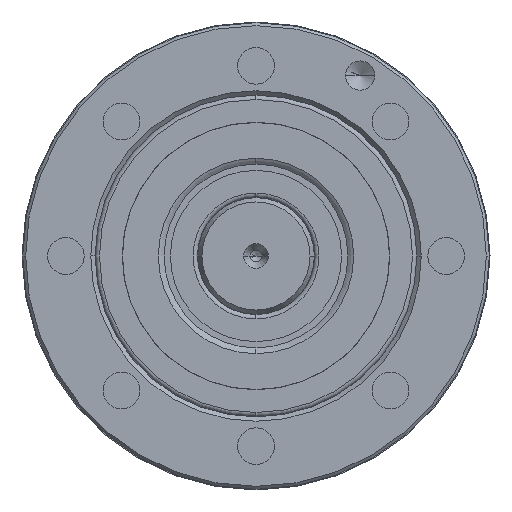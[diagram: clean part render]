
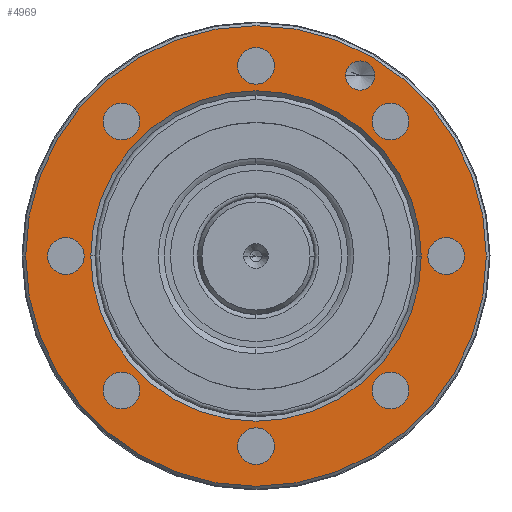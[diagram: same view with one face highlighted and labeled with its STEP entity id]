
A CAD part, left-side view. The second image highlights one B-rep face of the part: STEP entity #4969.
In plain terms, the highlighted planar face has unit normal (-1, 0, 0).
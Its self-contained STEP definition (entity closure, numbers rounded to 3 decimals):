
#626=CARTESIAN_POINT('',(-2.85,0.,0.));
#627=DIRECTION('',(-1.,0.,0.));
#628=DIRECTION('',(0.,1.,0.));
#629=AXIS2_PLACEMENT_3D('',#626,#627,#628);
#634=CARTESIAN_POINT('',(-2.85,0.,0.));
#635=DIRECTION('',(-1.,0.,0.));
#636=DIRECTION('',(0.,-1.,0.));
#637=AXIS2_PLACEMENT_3D('',#634,#635,#636);
#642=CARTESIAN_POINT('',(-2.85,13.,0.));
#643=DIRECTION('',(-1.,0.,0.));
#644=DIRECTION('',(0.,1.,0.));
#645=AXIS2_PLACEMENT_3D('',#642,#643,#644);
#650=CARTESIAN_POINT('',(-2.85,13.,0.));
#651=DIRECTION('',(-1.,0.,0.));
#652=DIRECTION('',(0.,-1.,0.));
#653=AXIS2_PLACEMENT_3D('',#650,#651,#652);
#658=CARTESIAN_POINT('',(-2.85,9.192,9.192));
#659=DIRECTION('',(-1.,0.,0.));
#660=DIRECTION('',(0.,0.707,0.707));
#661=AXIS2_PLACEMENT_3D('',#658,#659,#660);
#666=CARTESIAN_POINT('',(-2.85,9.192,9.192));
#667=DIRECTION('',(-1.,0.,0.));
#668=DIRECTION('',(0.,-0.707,-0.707));
#669=AXIS2_PLACEMENT_3D('',#666,#667,#668);
#674=CARTESIAN_POINT('',(-2.85,0.,13.));
#675=DIRECTION('',(-1.,0.,0.));
#676=DIRECTION('',(0.,0.,1.));
#677=AXIS2_PLACEMENT_3D('',#674,#675,#676);
#682=CARTESIAN_POINT('',(-2.85,0.,13.));
#683=DIRECTION('',(-1.,0.,0.));
#684=DIRECTION('',(0.,0.,-1.));
#685=AXIS2_PLACEMENT_3D('',#682,#683,#684);
#690=CARTESIAN_POINT('',(-2.85,-9.192,9.192));
#691=DIRECTION('',(-1.,0.,0.));
#692=DIRECTION('',(0.,-0.707,0.707));
#693=AXIS2_PLACEMENT_3D('',#690,#691,#692);
#698=CARTESIAN_POINT('',(-2.85,-9.192,9.192));
#699=DIRECTION('',(-1.,0.,0.));
#700=DIRECTION('',(0.,0.707,-0.707));
#701=AXIS2_PLACEMENT_3D('',#698,#699,#700);
#706=CARTESIAN_POINT('',(-2.85,-13.,0.));
#707=DIRECTION('',(-1.,0.,0.));
#708=DIRECTION('',(0.,-1.,0.));
#709=AXIS2_PLACEMENT_3D('',#706,#707,#708);
#714=CARTESIAN_POINT('',(-2.85,-13.,0.));
#715=DIRECTION('',(-1.,0.,0.));
#716=DIRECTION('',(0.,1.,0.));
#717=AXIS2_PLACEMENT_3D('',#714,#715,#716);
#722=CARTESIAN_POINT('',(-2.85,-9.192,-9.192));
#723=DIRECTION('',(-1.,0.,0.));
#724=DIRECTION('',(0.,-0.707,-0.707));
#725=AXIS2_PLACEMENT_3D('',#722,#723,#724);
#730=CARTESIAN_POINT('',(-2.85,-9.192,-9.192));
#731=DIRECTION('',(-1.,0.,0.));
#732=DIRECTION('',(0.,0.707,0.707));
#733=AXIS2_PLACEMENT_3D('',#730,#731,#732);
#738=CARTESIAN_POINT('',(-2.85,0.,-13.));
#739=DIRECTION('',(-1.,0.,0.));
#740=DIRECTION('',(0.,0.,-1.));
#741=AXIS2_PLACEMENT_3D('',#738,#739,#740);
#746=CARTESIAN_POINT('',(-2.85,0.,-13.));
#747=DIRECTION('',(-1.,0.,0.));
#748=DIRECTION('',(0.,0.,1.));
#749=AXIS2_PLACEMENT_3D('',#746,#747,#748);
#754=CARTESIAN_POINT('',(-2.85,9.192,-9.192));
#755=DIRECTION('',(-1.,0.,0.));
#756=DIRECTION('',(0.,0.707,-0.707));
#757=AXIS2_PLACEMENT_3D('',#754,#755,#756);
#762=CARTESIAN_POINT('',(-2.85,9.192,-9.192));
#763=DIRECTION('',(-1.,0.,0.));
#764=DIRECTION('',(0.,-0.707,0.707));
#765=AXIS2_PLACEMENT_3D('',#762,#763,#764);
#770=CARTESIAN_POINT('',(-2.85,0.,0.));
#771=DIRECTION('',(-1.,0.,0.));
#772=DIRECTION('',(0.,-1.,0.));
#773=AXIS2_PLACEMENT_3D('',#770,#771,#772);
#778=CARTESIAN_POINT('',(-2.85,0.,0.));
#779=DIRECTION('',(-1.,0.,0.));
#780=DIRECTION('',(0.,1.,0.));
#781=AXIS2_PLACEMENT_3D('',#778,#779,#780);
#786=CARTESIAN_POINT('',(-2.85,-7.125,12.341));
#787=DIRECTION('',(-1.,0.,0.));
#788=DIRECTION('',(0.,1.,0.));
#789=AXIS2_PLACEMENT_3D('',#786,#787,#788);
#794=CARTESIAN_POINT('',(-2.85,-7.125,12.341));
#795=DIRECTION('',(-1.,0.,0.));
#796=DIRECTION('',(0.,-1.,0.));
#797=AXIS2_PLACEMENT_3D('',#794,#795,#796);
#3711=CARTESIAN_POINT('',(-2.85,14.25,0.));
#3712=CARTESIAN_POINT('',(-2.85,11.75,0.));
#3713=VERTEX_POINT('',#3711);
#3714=VERTEX_POINT('',#3712);
#3715=CARTESIAN_POINT('',(-2.85,10.076,10.076));
#3716=CARTESIAN_POINT('',(-2.85,8.309,8.309));
#3717=VERTEX_POINT('',#3715);
#3718=VERTEX_POINT('',#3716);
#3719=CARTESIAN_POINT('',(-2.85,0.,14.25));
#3720=CARTESIAN_POINT('',(-2.85,0.,11.75));
#3721=VERTEX_POINT('',#3719);
#3722=VERTEX_POINT('',#3720);
#3723=CARTESIAN_POINT('',(-2.85,-10.076,10.076));
#3724=CARTESIAN_POINT('',(-2.85,-8.309,8.309));
#3725=VERTEX_POINT('',#3723);
#3726=VERTEX_POINT('',#3724);
#3727=CARTESIAN_POINT('',(-2.85,-14.25,0.));
#3728=CARTESIAN_POINT('',(-2.85,-11.75,0.));
#3729=VERTEX_POINT('',#3727);
#3730=VERTEX_POINT('',#3728);
#3731=CARTESIAN_POINT('',(-2.85,-10.076,-10.076));
#3732=CARTESIAN_POINT('',(-2.85,-8.309,-8.309));
#3733=VERTEX_POINT('',#3731);
#3734=VERTEX_POINT('',#3732);
#3735=CARTESIAN_POINT('',(-2.85,0.,-14.25));
#3736=CARTESIAN_POINT('',(-2.85,0.,-11.75));
#3737=VERTEX_POINT('',#3735);
#3738=VERTEX_POINT('',#3736);
#3739=CARTESIAN_POINT('',(-2.85,10.076,-10.076));
#3740=CARTESIAN_POINT('',(-2.85,8.309,-8.309));
#3741=VERTEX_POINT('',#3739);
#3742=VERTEX_POINT('',#3740);
#3743=CARTESIAN_POINT('',(-2.85,15.75,0.));
#3744=CARTESIAN_POINT('',(-2.85,-15.75,0.));
#3745=VERTEX_POINT('',#3743);
#3746=VERTEX_POINT('',#3744);
#3751=CARTESIAN_POINT('',(-2.85,-11.3,0.));
#3752=CARTESIAN_POINT('',(-2.85,11.3,0.));
#3753=VERTEX_POINT('',#3751);
#3754=VERTEX_POINT('',#3752);
#3761=CARTESIAN_POINT('',(-2.85,-6.125,12.341));
#3762=CARTESIAN_POINT('',(-2.85,-8.125,12.341));
#3763=VERTEX_POINT('',#3761);
#3764=VERTEX_POINT('',#3762);
#4899=CARTESIAN_POINT('',(-2.85,0.,0.));
#4900=DIRECTION('',(-1.,0.,0.));
#4901=DIRECTION('',(0.,1.,0.));
#4902=AXIS2_PLACEMENT_3D('',#4899,#4900,#4901);
#4903=PLANE('',#4902);
#4905=ORIENTED_EDGE('',*,*,#4904,.F.);
#4906=ORIENTED_EDGE('',*,*,#4882,.F.);
#4907=EDGE_LOOP('',(#4905,#4906));
#4908=FACE_OUTER_BOUND('',#4907,.F.);
#4910=ORIENTED_EDGE('',*,*,#4909,.T.);
#4912=ORIENTED_EDGE('',*,*,#4911,.T.);
#4913=EDGE_LOOP('',(#4910,#4912));
#4914=FACE_BOUND('',#4913,.F.);
#4916=ORIENTED_EDGE('',*,*,#4915,.T.);
#4918=ORIENTED_EDGE('',*,*,#4917,.T.);
#4919=EDGE_LOOP('',(#4916,#4918));
#4920=FACE_BOUND('',#4919,.F.);
#4922=ORIENTED_EDGE('',*,*,#4921,.T.);
#4924=ORIENTED_EDGE('',*,*,#4923,.T.);
#4925=EDGE_LOOP('',(#4922,#4924));
#4926=FACE_BOUND('',#4925,.F.);
#4928=ORIENTED_EDGE('',*,*,#4927,.T.);
#4930=ORIENTED_EDGE('',*,*,#4929,.T.);
#4931=EDGE_LOOP('',(#4928,#4930));
#4932=FACE_BOUND('',#4931,.F.);
#4934=ORIENTED_EDGE('',*,*,#4933,.T.);
#4936=ORIENTED_EDGE('',*,*,#4935,.T.);
#4937=EDGE_LOOP('',(#4934,#4936));
#4938=FACE_BOUND('',#4937,.F.);
#4940=ORIENTED_EDGE('',*,*,#4939,.T.);
#4942=ORIENTED_EDGE('',*,*,#4941,.T.);
#4943=EDGE_LOOP('',(#4940,#4942));
#4944=FACE_BOUND('',#4943,.F.);
#4946=ORIENTED_EDGE('',*,*,#4945,.T.);
#4948=ORIENTED_EDGE('',*,*,#4947,.T.);
#4949=EDGE_LOOP('',(#4946,#4948));
#4950=FACE_BOUND('',#4949,.F.);
#4952=ORIENTED_EDGE('',*,*,#4951,.T.);
#4954=ORIENTED_EDGE('',*,*,#4953,.T.);
#4955=EDGE_LOOP('',(#4952,#4954));
#4956=FACE_BOUND('',#4955,.F.);
#4958=ORIENTED_EDGE('',*,*,#4957,.T.);
#4960=ORIENTED_EDGE('',*,*,#4959,.T.);
#4961=EDGE_LOOP('',(#4958,#4960));
#4962=FACE_BOUND('',#4961,.F.);
#4964=ORIENTED_EDGE('',*,*,#4963,.T.);
#4966=ORIENTED_EDGE('',*,*,#4965,.T.);
#4967=EDGE_LOOP('',(#4964,#4966));
#4968=FACE_BOUND('',#4967,.F.);
#4969=ADVANCED_FACE('',(#4908,#4914,#4920,#4926,#4932,#4938,#4944,#4950,#4956,
#4962,#4968),#4903,.T.);
#630=CIRCLE('',#629,15.75);
#638=CIRCLE('',#637,15.75);
#646=CIRCLE('',#645,1.25);
#654=CIRCLE('',#653,1.25);
#662=CIRCLE('',#661,1.25);
#670=CIRCLE('',#669,1.25);
#678=CIRCLE('',#677,1.25);
#686=CIRCLE('',#685,1.25);
#694=CIRCLE('',#693,1.25);
#702=CIRCLE('',#701,1.25);
#710=CIRCLE('',#709,1.25);
#718=CIRCLE('',#717,1.25);
#726=CIRCLE('',#725,1.25);
#734=CIRCLE('',#733,1.25);
#742=CIRCLE('',#741,1.25);
#750=CIRCLE('',#749,1.25);
#758=CIRCLE('',#757,1.25);
#766=CIRCLE('',#765,1.25);
#774=CIRCLE('',#773,11.3);
#782=CIRCLE('',#781,11.3);
#790=CIRCLE('',#789,1.);
#798=CIRCLE('',#797,1.);
#4882=EDGE_CURVE('',#3746,#3745,#638,.T.);
#4904=EDGE_CURVE('',#3745,#3746,#630,.T.);
#4909=EDGE_CURVE('',#3713,#3714,#646,.T.);
#4911=EDGE_CURVE('',#3714,#3713,#654,.T.);
#4915=EDGE_CURVE('',#3717,#3718,#662,.T.);
#4917=EDGE_CURVE('',#3718,#3717,#670,.T.);
#4921=EDGE_CURVE('',#3721,#3722,#678,.T.);
#4923=EDGE_CURVE('',#3722,#3721,#686,.T.);
#4927=EDGE_CURVE('',#3725,#3726,#694,.T.);
#4929=EDGE_CURVE('',#3726,#3725,#702,.T.);
#4933=EDGE_CURVE('',#3729,#3730,#710,.T.);
#4935=EDGE_CURVE('',#3730,#3729,#718,.T.);
#4939=EDGE_CURVE('',#3733,#3734,#726,.T.);
#4941=EDGE_CURVE('',#3734,#3733,#734,.T.);
#4945=EDGE_CURVE('',#3737,#3738,#742,.T.);
#4947=EDGE_CURVE('',#3738,#3737,#750,.T.);
#4951=EDGE_CURVE('',#3741,#3742,#758,.T.);
#4953=EDGE_CURVE('',#3742,#3741,#766,.T.);
#4957=EDGE_CURVE('',#3753,#3754,#774,.T.);
#4959=EDGE_CURVE('',#3754,#3753,#782,.T.);
#4963=EDGE_CURVE('',#3763,#3764,#790,.T.);
#4965=EDGE_CURVE('',#3764,#3763,#798,.T.);
